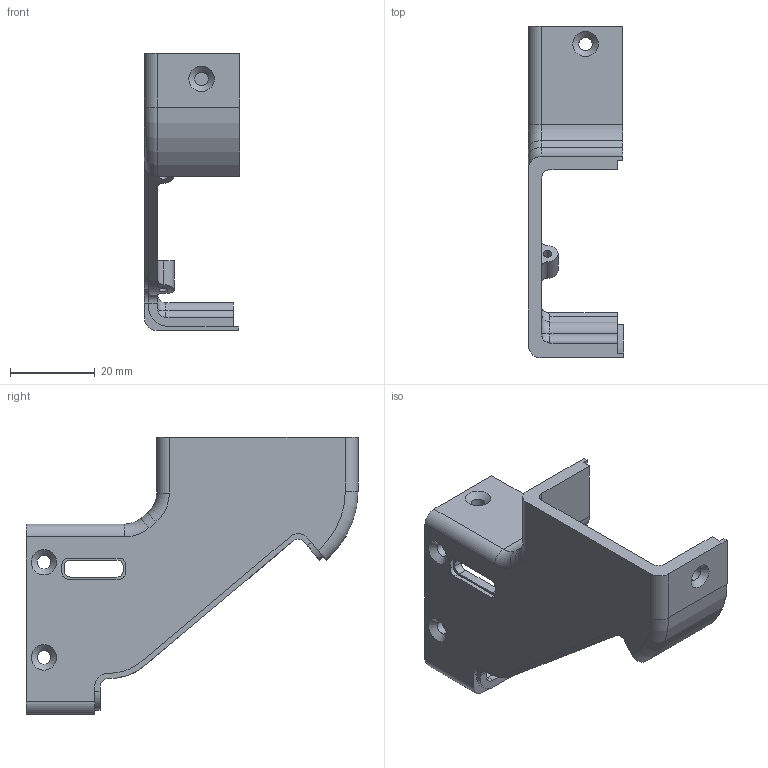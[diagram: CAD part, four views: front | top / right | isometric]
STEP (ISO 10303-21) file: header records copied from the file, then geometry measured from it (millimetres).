
FILE_DESCRIPTION(/* description */ (''),/* implementation_level */ '2;1');
FILE_NAME(/* name */ 'Cannula Holder Left.step',/* time_stamp */ '2026-10-23T15:38:32+05:30',/* author */ (''),/* organization */ (''),/* preprocessor_version */ 'ST-DEVELOPER v20.2',/* originating_system */ 'Autodesk Translation Framework v15.15.0.0',/* authorisation */ '');
FILE_SCHEMA (('AUTOMOTIVE_DESIGN { 1 0 10303 214 3 1 1 }'));
Length unit declared in the file: millimetre
Products named in the file (1): 2026-10-23-15-38-32-661
Bounding box: 22.5 x 78.5 x 65.5 mm (x, y, z)
Volume: 15075.7 mm3; surface area: 11274.3 mm2
Topology: 1 solids, 1 shells, 135 faces, 368 edges, 235 vertices
Faces by surface type: cylinder 62, plane 48, torus 10, cone 8, sphere 6, bspline 1
Full cylindrical faces by diameter (mm): 2.075 x2, 2.529 x3, 3.2 x5
Entity records: 4518 total; most frequent: CARTESIAN_POINT 939, DIRECTION 773, ORIENTED_EDGE 730, EDGE_CURVE 365, AXIS2_PLACEMENT_3D 284, VERTEX_POINT 235, LINE 205, VECTOR 205
